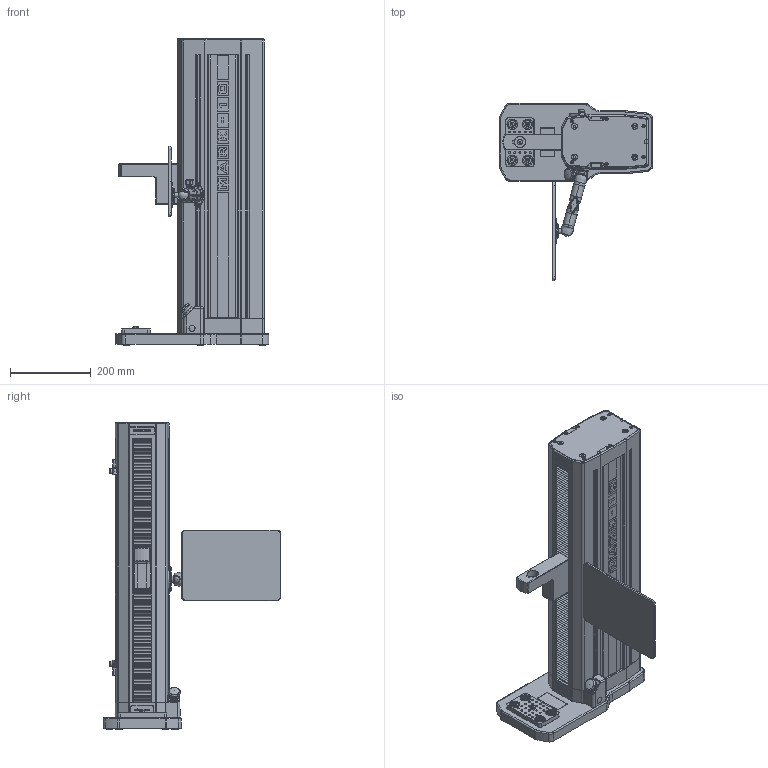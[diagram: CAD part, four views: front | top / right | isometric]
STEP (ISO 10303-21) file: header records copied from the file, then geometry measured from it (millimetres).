
FILE_DESCRIPTION(/* description */ (''),/* implementation_level */ '2;1');
FILE_NAME(/* name */ 'F:\CAD files\Itr\3D MARKETING MODELS\MOTORIZED TEST STANDS\FX05\F105, F305, F505 IMT\F105, F305, F505 IMT.stp',/* time_stamp */ '2021-02-05T15:40:30-05:00',/* author */ ('dsollitt'),/* organization */ (''),/* preprocessor_version */ 'ST-DEVELOPER v18.1',/* originating_system */ 'AutoCAD Mechanical',/* authorisation */ '');
FILE_SCHEMA (('AUTOMOTIVE_DESIGN { 1 0 10303 214 3 1 1 }'));
Products named in the file (1): Product
Bounding box: 379.73 x 439.3 x 758.05 mm (x, y, z)
Volume: 21246150.5 mm3; surface area: 1412204.3 mm2
Topology: 9 solids, 15 shells, 11715 faces, 32648 edges, 21604 vertices
Faces by surface type: plane 10205, cylinder 940, cone 227, bspline 189, torus 110, sphere 44
Full cylindrical faces by diameter (mm): 1.015 x2, 1.55 x4, 1.797 x2, 2 x4, 2.13 x1, 2.474 x5, 3.328 x1, 3.505 x5, 3.556 x1, 4.166 x4, 4.191 x4, 4.826 x25, 5.563 x2, 6 x2, 6.147 x1, 6.35 x7, 6.858 x2, 7.798 x6, 7.925 x1, 7.937 x3, 7.938 x2, 9.169 x2, 9.525 x2, 9.8 x1, 10.439 x4, 11.43 x1, 12.1 x1, 12.7 x2, 12.8 x1, 13.1 x1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
Entity records: 381622 total; most frequent: CARTESIAN_POINT 79808, ORIENTED_EDGE 65240, DIRECTION 57992, EDGE_CURVE 32620, LINE 29176, VECTOR 29176, VERTEX_POINT 21604, AXIS2_PLACEMENT_3D 14408
